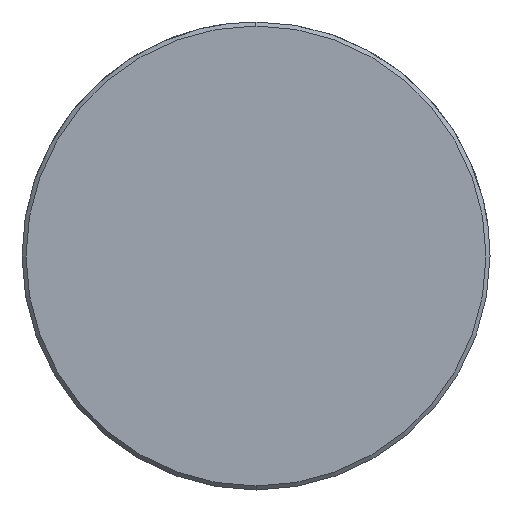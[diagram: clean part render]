
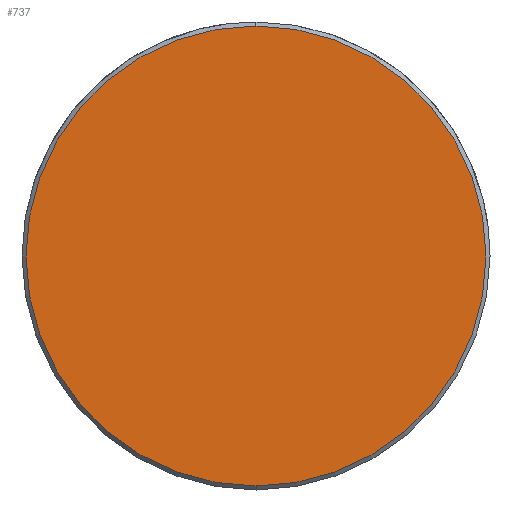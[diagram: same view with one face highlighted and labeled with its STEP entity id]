
A CAD part, left-side view. The second image highlights one B-rep face of the part: STEP entity #737.
In plain terms, the highlighted planar face has unit normal (-1, 0, 0).
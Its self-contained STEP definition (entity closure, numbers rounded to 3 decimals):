
#669=CARTESIAN_POINT('Vertex',(0.,0.,-17.2)) ;
#672=CARTESIAN_POINT('Axis2P3D Location',(0.,0.,0.)) ;
#676=CARTESIAN_POINT('Vertex',(0.,17.2,0.)) ;
#679=CARTESIAN_POINT('Axis2P3D Location',(0.,0.,0.)) ;
#683=CARTESIAN_POINT('Vertex',(0.,0.,17.2)) ;
#705=CARTESIAN_POINT('Axis2P3D Location',(0.,0.,0.)) ;
#709=CARTESIAN_POINT('Vertex',(0.,-17.2,0.)) ;
#712=CARTESIAN_POINT('Axis2P3D Location',(0.,0.,0.)) ;
#726=CARTESIAN_POINT('Axis2P3D Location',(0.,0.,0.)) ;
#673=DIRECTION('Axis2P3D Direction',(1.,0.,-0.)) ;
#680=DIRECTION('Axis2P3D Direction',(1.,0.,-0.)) ;
#706=DIRECTION('Axis2P3D Direction',(1.,0.,-0.)) ;
#713=DIRECTION('Axis2P3D Direction',(1.,0.,-0.)) ;
#727=DIRECTION('Axis2P3D Direction',(1.,0.,-0.)) ;
#728=DIRECTION('Axis2P3D XDirection',(-0.,0.,-1.)) ;
#674=AXIS2_PLACEMENT_3D('Circle Axis2P3D',#672,#673,$) ;
#681=AXIS2_PLACEMENT_3D('Circle Axis2P3D',#679,#680,$) ;
#707=AXIS2_PLACEMENT_3D('Circle Axis2P3D',#705,#706,$) ;
#714=AXIS2_PLACEMENT_3D('Circle Axis2P3D',#712,#713,$) ;
#729=AXIS2_PLACEMENT_3D('Plane Axis2P3D',#726,#727,#728) ;
#732=ORIENTED_EDGE('',*,*,#678,.F.) ;
#733=ORIENTED_EDGE('',*,*,#716,.F.) ;
#734=ORIENTED_EDGE('',*,*,#711,.F.) ;
#735=ORIENTED_EDGE('',*,*,#685,.F.) ;
#737=ADVANCED_FACE('549-30X140',(#736),#730,.F.) ;
#675=CIRCLE('generated circle',#674,17.2) ;
#682=CIRCLE('generated circle',#681,17.2) ;
#708=CIRCLE('generated circle',#707,17.2) ;
#715=CIRCLE('generated circle',#714,17.2) ;
#678=EDGE_CURVE('',#670,#677,#675,.T.) ;
#685=EDGE_CURVE('',#677,#684,#682,.T.) ;
#711=EDGE_CURVE('',#684,#710,#708,.T.) ;
#716=EDGE_CURVE('',#710,#670,#715,.T.) ;
#731=EDGE_LOOP('',(#732,#733,#734,#735)) ;
#736=FACE_OUTER_BOUND('',#731,.T.) ;
#730=PLANE('Plane',#729) ;
#670=VERTEX_POINT('',#669) ;
#677=VERTEX_POINT('',#676) ;
#684=VERTEX_POINT('',#683) ;
#710=VERTEX_POINT('',#709) ;
